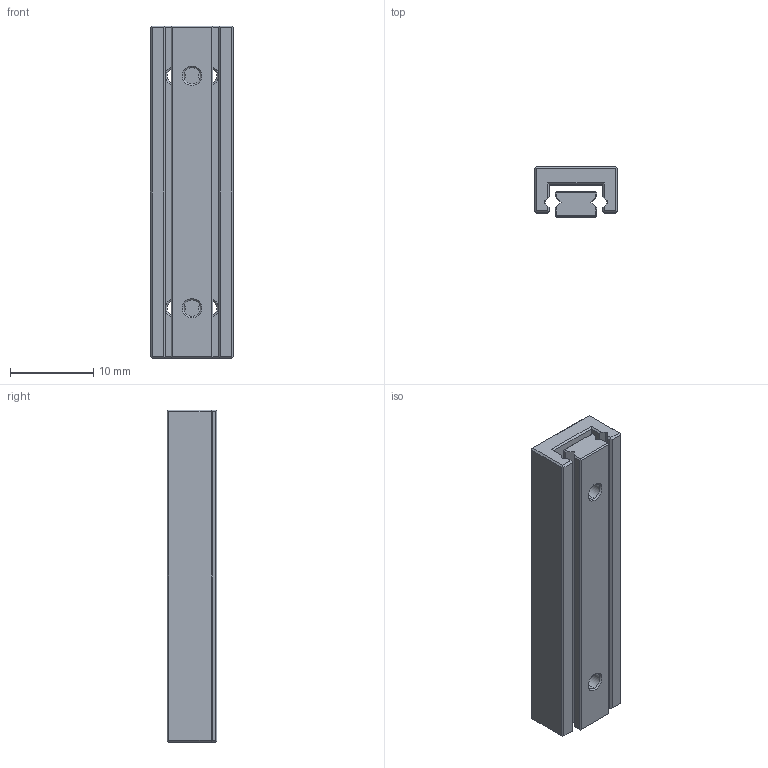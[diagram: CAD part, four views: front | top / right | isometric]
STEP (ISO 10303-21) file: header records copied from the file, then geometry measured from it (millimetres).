
FILE_DESCRIPTION (( 'STEP AP214' ), '1' );
FILE_NAME ('PMM 1-40.STEP', '2012-03-02T10:44:21', ( '' ), ( '' ), 'SwSTEP 2.0', 'SolidWorks 2011', '' );
FILE_SCHEMA (( 'AUTOMOTIVE_DESIGN' ));
Length unit declared in the file: millimetre
Products named in the file (1): PMM 1-40
Bounding box: 10 x 6 x 40 mm (x, y, z)
Volume: 1806.7 mm3; surface area: 2326.5 mm2
Topology: 2 solids, 2 shells, 256 faces, 696 edges, 460 vertices
Faces by surface type: plane 174, bspline 43, cone 24, cylinder 15
Entity records: 11893 total; most frequent: CARTESIAN_POINT 4024, ORIENTED_EDGE 1392, DIRECTION 1108, EDGE_CURVE 696, LINE 540, VECTOR 540, VERTEX_POINT 460, AXIS2_PLACEMENT_3D 284
